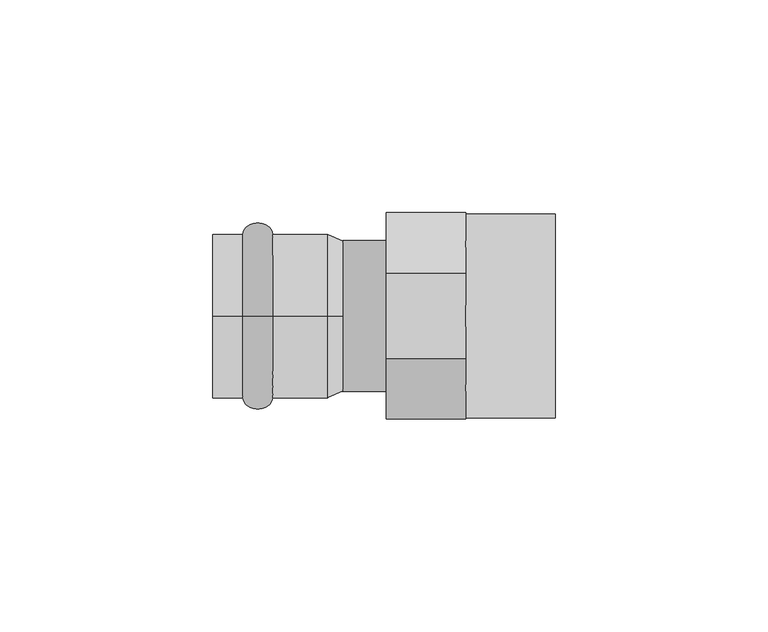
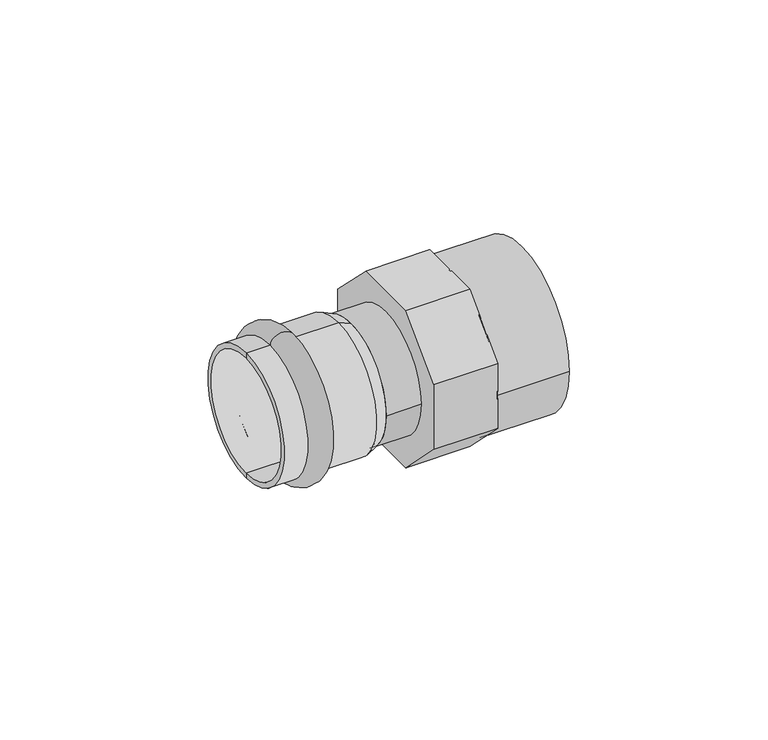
"""IFC4 building model written with IfcOpenShell, lengths in millimetres: pipe fitting geometry."""

import ifcopenshell
import ifcopenshell.guid

model = None  # the IFC model being written
_history = None  # IfcOwnerHistory: only IFC2X3 demands one
_inside = {}  # id of a spatial element -> (the spatial element, [elements in it])
_under = {}  # id of a project, library or spatial element -> (it, [spatial elements below it])
_declared = {}  # id of a project -> (the project, [libraries it declares])
_typed = {}  # id of a type object -> (the type object, [elements of that type])
_made_of = {}  # id of a material, layer set ... -> (it, [elements and type objects made of it])


def new_model(schema):
    """Start an empty IFC model of exactly this schema.

    Asked for "IFC4X3", IfcOpenShell would pick the latest addendum, in which some entities
    have other attributes; the version numbers below select the first issue.
    IFC2X3 requires an IfcOwnerHistory on every rooted entity: one is made here for all.
    """
    global model, _history
    if schema == "IFC4X3":
        model = ifcopenshell.file(schema_version=(4, 3, 0, 0))
    else:
        model = ifcopenshell.file(schema=schema)
    _inside.clear()
    _under.clear()
    _declared.clear()
    _typed.clear()
    _made_of.clear()
    _history = None
    if model.schema == "IFC2X3":
        org = make("IfcOrganization", Name="unknown")
        user = make(
            "IfcPersonAndOrganization",
            ThePerson=make("IfcPerson", FamilyName="unknown"),
            TheOrganization=org,
        )
        app = make(
            "IfcApplication",
            ApplicationDeveloper=org,
            Version="unknown",
            ApplicationFullName="unknown",
            ApplicationIdentifier="unknown",
        )
        _history = make(
            "IfcOwnerHistory",
            OwningUser=user,
            OwningApplication=app,
            ChangeAction="ADDED",
            CreationDate=0,
        )
    return model


def make(cls, **values):
    """One entity of the class cls with the attributes given. An attribute that is None is left unset."""
    return model.create_entity(
        cls, **{name: value for name, value in values.items() if value is not None}
    )


def rooted(cls, **values):
    """An entity with a GlobalId (a new one), such as an element, a storey or a relation."""
    return make(cls, GlobalId=ifcopenshell.guid.new(), OwnerHistory=_history, **values)


def si_unit(unit_type, name, prefix=None):
    """IfcSIUnit, for example si_unit("LENGTHUNIT", "METRE", prefix="MILLI")."""
    return make("IfcSIUnit", UnitType=unit_type, Prefix=prefix, Name=name)


def assignment(units):
    """IfcUnitAssignment: the units of a project."""
    return None if units is None else make("IfcUnitAssignment", Units=units)


def point(xyz):
    """IfcCartesianPoint."""
    return None if xyz is None else make("IfcCartesianPoint", Coordinates=xyz)


def direction(xyz):
    """IfcDirection."""
    return None if xyz is None else make("IfcDirection", DirectionRatios=xyz)


def frame(location, z_axis=None, x_axis=None):
    """IfcAxis2Placement3D, a coordinate frame: its origin and axes. An axis left out is left unset."""
    return make(
        "IfcAxis2Placement3D",
        Location=point(location),
        Axis=direction(z_axis),
        RefDirection=direction(x_axis),
    )


def frame_2d(location, x_axis=None):
    """IfcAxis2Placement2D, a coordinate frame in the plane: its origin and x axis."""
    return make(
        "IfcAxis2Placement2D", Location=point(location), RefDirection=direction(x_axis)
    )


def origin():
    """The frame at (0, 0, 0) with its axes left unset."""
    return frame((0.0, 0.0, 0.0))


def origin_2d():
    """The frame at (0, 0) in the plane with its x axis left unset."""
    return frame_2d((0.0, 0.0))


def place(relative_to, where):
    """IfcLocalPlacement: puts the frame where relative to a parent placement (None: the world)."""
    return make(
        "IfcLocalPlacement", PlacementRelTo=relative_to, RelativePlacement=where
    )


def context(
    kind, dimensions, precision=None, world=None, true_north=None, identifier=None
):
    """IfcGeometricRepresentationContext, for example the 3D "Model" context."""
    return make(
        "IfcGeometricRepresentationContext",
        ContextIdentifier=identifier,
        ContextType=kind,
        CoordinateSpaceDimension=dimensions,
        Precision=precision,
        WorldCoordinateSystem=world,
        TrueNorth=true_north,
    )


def project(units=None, contexts=None):
    """IfcProject with its units and contexts."""
    return rooted(
        "IfcProject",
        Name="project",
        RepresentationContexts=contexts,
        UnitsInContext=assignment(units),
    )


def spatial(cls, under=None, at=None, **own):
    """A site, building, storey or space (cls), placed at a placement, below another one or the project."""
    s = rooted(cls, ObjectPlacement=at, **own)
    if under is not None:
        _under.setdefault(under.id(), (under, []))[1].append(s)
    return s


def polyline(points):
    """IfcPolyline through the points."""
    return make("IfcPolyline", Points=[point(p) for p in points])


def circle_curve(where, radius):
    """IfcCircle in the frame where."""
    return make("IfcCircle", Position=where, Radius=radius)


def ellipse_curve(where, semi_axis1, semi_axis2):
    """IfcEllipse in the frame where."""
    return make(
        "IfcEllipse", Position=where, SemiAxis1=semi_axis1, SemiAxis2=semi_axis2
    )


def trimmed(basis, trim1, trim2, sense, master):
    """IfcTrimmedCurve: the piece of a basis curve between two trims."""
    return make(
        "IfcTrimmedCurve",
        BasisCurve=basis,
        Trim1=trim1,
        Trim2=trim2,
        SenseAgreement=sense,
        MasterRepresentation=master,
    )


def segment(curve, same_sense, transition):
    """IfcCompositeCurveSegment."""
    return make(
        "IfcCompositeCurveSegment",
        Transition=transition,
        SameSense=same_sense,
        ParentCurve=curve,
    )


def composite_curve(segments, self_intersect=None):
    """IfcCompositeCurve: segments joined end to end."""
    return make("IfcCompositeCurve", Segments=segments, SelfIntersect=self_intersect)


def outline(outer, holes=None, kind="AREA"):
    """IfcArbitraryClosedProfileDef: a profile drawn as a closed curve; with holes, ...WithVoids."""
    if holes is None:
        return make("IfcArbitraryClosedProfileDef", ProfileType=kind, OuterCurve=outer)
    return make(
        "IfcArbitraryProfileDefWithVoids",
        ProfileType=kind,
        OuterCurve=outer,
        InnerCurves=holes,
    )


def extrude(swept, where, along, depth):
    """IfcExtrudedAreaSolid: the profile swept, set in the frame where, extruded along a direction by depth."""
    return make(
        "IfcExtrudedAreaSolid",
        SweptArea=swept,
        Position=where,
        ExtrudedDirection=direction(along),
        Depth=depth,
    )


def shape(context_of_items, identifier, shape_type, items):
    """IfcShapeRepresentation: the items that make up one representation, for example the "Body"."""
    return make(
        "IfcShapeRepresentation",
        ContextOfItems=context_of_items,
        RepresentationIdentifier=identifier,
        RepresentationType=shape_type,
        Items=items,
    )


def source(mapping_origin, context_of_items, identifier, shape_type, items):
    """IfcRepresentationMap: a shape defined once, which mapped items show again and again."""
    return make(
        "IfcRepresentationMap",
        MappingOrigin=mapping_origin,
        MappedRepresentation=shape(context_of_items, identifier, shape_type, items),
    )


def transform(
    local_origin,
    x_axis=None,
    y_axis=None,
    z_axis=None,
    scale=None,
    scale2=None,
    scale3=None,
    uniform=True,
):
    """IfcCartesianTransformationOperator3D, or its non-uniform kind. x_axis, y_axis, z_axis: its Axis1, 2, 3."""
    if uniform:
        return make(
            "IfcCartesianTransformationOperator3D",
            Axis1=direction(x_axis),
            Axis2=direction(y_axis),
            LocalOrigin=point(local_origin),
            Scale=scale,
            Axis3=direction(z_axis),
        )
    return make(
        "IfcCartesianTransformationOperator3DnonUniform",
        Axis1=direction(x_axis),
        Axis2=direction(y_axis),
        LocalOrigin=point(local_origin),
        Scale=scale,
        Axis3=direction(z_axis),
        Scale2=scale2,
        Scale3=scale3,
    )


def mapped(mapping_source, mapping_target):
    """IfcMappedItem: shows the shape of a source again, moved by a transform."""
    return make(
        "IfcMappedItem", MappingSource=mapping_source, MappingTarget=mapping_target
    )


def made_of(thing, what):
    """Note that an element or type object is made of a material, layer set ...; save() writes the relation."""
    if what is not None:
        _made_of.setdefault(what.id(), (what, []))[1].append(thing)
    return thing


def element(
    cls,
    number,
    at=None,
    inside=None,
    cuts=None,
    type_object=None,
    material=None,
    context=None,
    identifier="Body",
    shape_type=None,
    held_by="IfcProductDefinitionShape",
    body=None,
    shapes=None,
    **own,
):
    """One element of the class cls, such as IfcWall. Its Tag is "e" and its number.

    at: its placement. inside: the storey or other place that contains it. cuts: it is an
    opening in that element (IfcRelVoidsElement). A single representation is given by context,
    identifier, shape_type and body (its items); several are given by shapes. held_by: the class
    of the entity that holds the representations. save() writes the other relations.
    """
    e = rooted(cls, Tag="e%d" % number, ObjectPlacement=at, **own)
    if body is not None:
        shapes = [shape(context, identifier, shape_type, body)]
    if shapes is not None:
        e.Representation = make(held_by, Representations=shapes)
    if inside is not None:
        _inside.setdefault(inside.id(), (inside, []))[1].append(e)
    if cuts is not None:
        rooted(
            "IfcRelVoidsElement", RelatingBuildingElement=cuts, RelatedOpeningElement=e
        )
    if type_object is not None:
        _typed.setdefault(type_object.id(), (type_object, []))[1].append(e)
    return made_of(e, material)


def aggregate(whole, parts):
    """IfcRelAggregates: a whole, such as a stair, and the parts it consists of."""
    return rooted("IfcRelAggregates", RelatingObject=whole, RelatedObjects=parts)


def save(model, path):
    """Write the relations noted so far, then the file.

    IfcRelAggregates (storeys below a building ...), IfcRelContainedInSpatialStructure (elements
    in a storey), IfcRelDefinesByType, IfcRelAssociatesMaterial and IfcRelDeclares: one each for
    every whole, place, type object, material and project.
    """
    for whole, parts in _under.values():
        aggregate(whole, parts)
    for where, things in _inside.values():
        rooted(
            "IfcRelContainedInSpatialStructure",
            RelatedElements=things,
            RelatingStructure=where,
        )
    for kind, things in _typed.values():
        rooted("IfcRelDefinesByType", RelatedObjects=things, RelatingType=kind)
    for what, things in _made_of.values():
        rooted("IfcRelAssociatesMaterial", RelatedObjects=things, RelatingMaterial=what)
    for by, libraries in _declared.values():
        rooted("IfcRelDeclares", RelatingContext=by, RelatedDefinitions=libraries)
    model.write(path)


def plane_surface(at):
    """IfcPlane: the flat surface through the origin of the frame at, square to its z axis."""
    return make("IfcPlane", Position=at)


def cylinder_surface(at, radius):
    """IfcCylindricalSurface: all points at the distance radius from the z axis of the frame at."""
    return make("IfcCylindricalSurface", Position=at, Radius=radius)


def revolved_surface(curve, axis_point, axis_direction):
    """IfcSurfaceOfRevolution: the curve turned about the line through axis_point along axis_direction."""
    return make(
        "IfcSurfaceOfRevolution",
        SweptCurve=make("IfcArbitraryOpenProfileDef", ProfileType="CURVE", Curve=curve),
        AxisPosition=make("IfcAxis1Placement", Location=point(axis_point), Axis=direction(axis_direction)),
    )


def advanced_brep(points, edges, surfaces, faces):
    """IfcAdvancedBrep: a solid bounded by faces that lie on surfaces and meet in shared edges.

    An edge is (start, end): straight between two places in points (the first is 0);
    or (start, end, curve); or (start, end, curve, False) where it runs against its curve.
    A face is (place in surfaces, loops), or (place, loops, False) where it looks against
    its surface's normal. A loop lists edges by number (the first is 1), with a minus sign
    where the edge is run from its end to its start. The first loop is the outer one.
    """
    corners = [point(p) for p in points]
    vertices = [make("IfcVertexPoint", VertexGeometry=c) for c in corners]
    made = []
    for start, end, *more in edges:
        made.append(
            make(
                "IfcEdgeCurve",
                EdgeStart=vertices[start],
                EdgeEnd=vertices[end],
                EdgeGeometry=more[0] if more else make("IfcPolyline", Points=[corners[start], corners[end]]),
                SameSense=more[1] if len(more) > 1 else True,
            )
        )
    hull = []
    for where, loops, *sense in faces:
        bounds = []
        for j, loop in enumerate(loops):
            ring = [make("IfcOrientedEdge", EdgeElement=made[abs(k) - 1], Orientation=k > 0) for k in loop]
            bounds.append(
                make(
                    "IfcFaceOuterBound" if j == 0 else "IfcFaceBound",
                    Bound=make("IfcEdgeLoop", EdgeList=ring),
                    Orientation=True,
                )
            )
        hull.append(make("IfcAdvancedFace", Bounds=bounds, FaceSurface=surfaces[where], SameSense=sense[0] if sense else True))
    return make("IfcAdvancedBrep", Outer=make("IfcClosedShell", CfsFaces=hull))


def pipe_fitting_e44a3966(model_context):
    return source(origin(), model_context, "Body", "SolidModel", [
        advanced_brep(
        [(-20.0, 0.0, 19.25), (-20.0, 0.0, -19.25), (-13.0, 0.0, -19.25), (-13.0, 0.0, 19.25)],
        [
            (0, 1, circle_curve(frame((-20.0, 0.0, 0.0), z_axis=(-1.0, 0.0, 0.0), x_axis=(0.0, 0.0, -1.0)), 19.25)),
            (1, 2),
            (2, 3, circle_curve(frame((-13.0, 0.0, 0.0), z_axis=(1.0, 0.0, 0.0), x_axis=(0.0, 0.0, -1.0)), 19.25)),
            (3, 0),
            (1, 0, circle_curve(frame((-20.0, 0.0, 0.0), z_axis=(-1.0, 0.0, 0.0), x_axis=(0.0, 0.0, -1.0)), 19.25)),
            (3, 2, circle_curve(frame((-13.0, 0.0, 0.0), z_axis=(1.0, 0.0, 0.0), x_axis=(0.0, 0.0, -1.0)), 19.25)),
            (2, 1, ellipse_curve(frame((-16.5, 0.0, -19.25), z_axis=(0.0, 1.0, 0.0), x_axis=(-1.0, 0.0, 0.0)), 3.5, 2.75)),
            (0, 3, ellipse_curve(frame((-16.5, 0.0, 19.25), z_axis=(0.0, 1.0, 0.0), x_axis=(-1.0, 0.0, 0.0)), 3.5, 2.75)),
        ],
        [
            revolved_surface(polyline([(-13.0, 0.0, -19.25), (-20.0, 0.0, -19.25)]), (3.0, 0.0, 0.0), (1.0, 0.0, 0.0)),
            revolved_surface(trimmed(ellipse_curve(frame((-16.5, 0.0, -19.25), z_axis=(0.0, -1.0, 0.0), x_axis=(-1.0, 0.0, 0.0)), 3.5, 2.75), [point((-20.0, 0.0, -19.25))], [point((-13.0, 0.0, -19.25))], True, "CARTESIAN"), (3.0, 0.0, 0.0), (1.0, 0.0, 0.0)),
        ],
        [
            (0, [[1, 2, 3, 4]]),
            (0, [[5, -4, 6, -2]]),
            (1, [[-3, 7, -1, 8]]),
            (1, [[-6, -8, -5, -7]]),
        ],
    ),
        advanced_brep(
        [(3.5337785, 0.0, 17.75), (3.5337785, 0.0, -17.75), (0.0, 0.0, -19.25), (0.0, 0.0, 19.25), (-27.0, 0.0, 17.75), (-27.0, 0.0, -17.75), (-27.0, 0.0, 19.25), (-27.0, 0.0, -19.25)],
        [
            (0, 1, circle_curve(frame((3.5337785, 0.0, 0.0), z_axis=(-1.0, 0.0, 0.0), x_axis=(0.0, 0.0, -1.0)), 17.75)),
            (1, 2),
            (2, 3, circle_curve(frame((0.0, 0.0, 0.0), z_axis=(1.0, 0.0, 0.0), x_axis=(0.0, 0.0, -1.0)), 19.25)),
            (3, 0),
            (1, 0, circle_curve(frame((3.5337785, 0.0, 0.0), z_axis=(-1.0, 0.0, 0.0), x_axis=(0.0, 0.0, -1.0)), 17.75)),
            (3, 2, circle_curve(frame((0.0, 0.0, 0.0), z_axis=(1.0, 0.0, 0.0), x_axis=(0.0, 0.0, -1.0)), 19.25)),
            (4, 5, circle_curve(frame((-27.0, 0.0, 0.0), z_axis=(-1.0, 0.0, 0.0), x_axis=(0.0, 0.0, -1.0)), 17.75)),
            (5, 1),
            (0, 4),
            (5, 4, circle_curve(frame((-27.0, 0.0, 0.0), z_axis=(-1.0, 0.0, 0.0), x_axis=(0.0, 0.0, -1.0)), 17.75)),
            (6, 7, circle_curve(frame((-27.0, 0.0, 0.0), z_axis=(-1.0, 0.0, 0.0), x_axis=(0.0, 0.0, -1.0)), 19.25)),
            (7, 5),
            (4, 6),
            (7, 6, circle_curve(frame((-27.0, 0.0, 0.0), z_axis=(-1.0, 0.0, 0.0), x_axis=(0.0, 0.0, -1.0)), 19.25)),
            (2, 7),
            (6, 3),
        ],
        [
            revolved_surface(polyline([(0.0, 0.0, -19.25), (3.5337785, 0.0, -17.75)]), (3.0, 0.0, 0.0), (1.0, 0.0, 0.0)),
            revolved_surface(polyline([(3.5337785, 0.0, -17.75), (-27.0, 0.0, -17.75)]), (3.0, 0.0, 0.0), (1.0, 0.0, 0.0)),
            plane_surface(frame((-27.0, 0.0, 0.0), z_axis=(-1.0, 0.0, 0.0), x_axis=(0.0, 0.0, -1.0))),
            cylinder_surface(frame((3.0, 0.0, 0.0), z_axis=(1.0, 0.0, 0.0), x_axis=(0.0, 0.0, -1.0)), 19.25),
        ],
        [
            (0, [[1, 2, 3, 4]]),
            (0, [[5, -4, 6, -2]]),
            (1, [[7, 8, -1, 9]]),
            (1, [[10, -9, -5, -8]]),
            (2, [[11, 12, -7, 13]]),
            (2, [[14, -13, -10, -12]]),
            (3, [[-3, 15, -11, 16]]),
            (3, [[-6, -16, -14, -15]]),
        ],
    ),
        extrude(outline(composite_curve([segment(trimmed(circle_curve(origin_2d(), 24.0), [point((-24.0, 0.0))], [point((24.0, 0.0))], False, "CARTESIAN"), True, "CONTINUOUS"), segment(trimmed(circle_curve(origin_2d(), 24.0), [point((24.0, 0.0))], [point((-24.0, 0.0))], False, "CARTESIAN"), True, "CONTINUOUS")], self_intersect=False)), frame((32.3337785, 0.0, 0.0), z_axis=(1.0, 0.0, 0.0), x_axis=(0.0, 1.0, 0.0)), (0.0, 0.0, 1.0), 21.0),
        extrude(outline(composite_curve([segment(trimmed(circle_curve(origin_2d(), 17.75), [point((-17.75, 0.0))], [point((17.75, 0.0))], False, "CARTESIAN"), True, "CONTINUOUS"), segment(trimmed(circle_curve(origin_2d(), 17.75), [point((17.75, 0.0))], [point((-17.75, 0.0))], False, "CARTESIAN"), True, "CONTINUOUS")], self_intersect=False)), frame((3.5337785, 0.0, 0.0), z_axis=(1.0, 0.0, 0.0), x_axis=(0.0, 1.0, 0.0)), (0.0, 0.0, 1.0), 10.2),
        extrude(outline(polyline([(-24.25, 10.0446789), (-10.0446789, 24.25), (10.0446789, 24.25), (24.25, 10.0446789), (24.25, -10.0446789), (10.0446789, -24.25), (-10.0446789, -24.25), (-24.25, -10.0446789), (-24.25, 10.0446789)]), holes=[polyline([(5.2812229, -12.75), (12.75, -5.2812229), (12.75, 5.2812229), (5.2812229, 12.75), (-5.2812229, 12.75), (-12.75, 5.2812229), (-12.75, -5.2812229), (-5.2812229, -12.75), (5.2812229, -12.75)])]), frame((13.7337785, 0.0, 0.0), z_axis=(1.0, 0.0, 0.0), x_axis=(0.0, 1.0, 0.0)), (0.0, 0.0, 1.0), 18.6),
    ])


if __name__ == "__main__":
    model = new_model("IFC4")
    model_context = context("Model", 3, world=origin())
    ifc_project = project(units=[si_unit("LENGTHUNIT", "METRE", prefix="MILLI")], contexts=[model_context])
    site = spatial("IfcSite", under=ifc_project)
    building = spatial("IfcBuilding", under=site)
    placement = place(None, origin())
    pipe_fitting_shape = pipe_fitting_e44a3966(model_context)
    element("IfcPipeFitting", 1, ObjectType="РЕХАУ_Пресс Муфта НР : 35 x R 1 1/2\"", at=placement, inside=building, context=model_context, shape_type="MappedRepresentation", body=[
        mapped(pipe_fitting_shape, transform((0.0, 0.0, 0.0), x_axis=(1.0, 0.0, 0.0), y_axis=(0.0, 1.0, 0.0), z_axis=(0.0, 0.0, 1.0))),
    ])
    save(model, "model.ifc")
